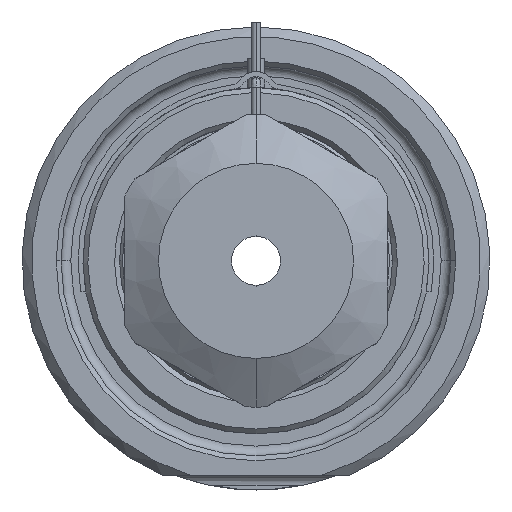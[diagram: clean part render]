
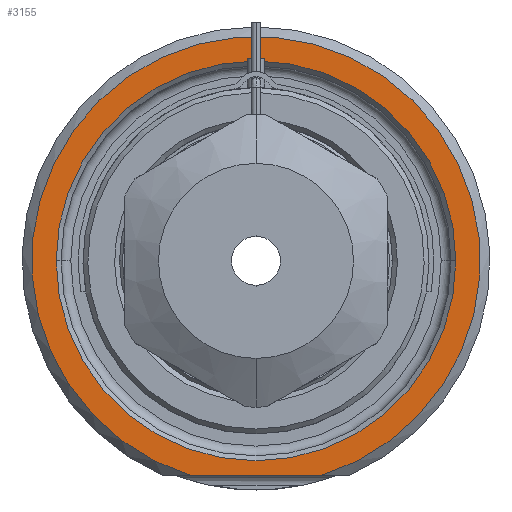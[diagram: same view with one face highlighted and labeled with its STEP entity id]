
A CAD part, front view. The second image highlights one B-rep face of the part: STEP entity #3155.
In plain terms, the highlighted planar face has unit normal (0, -1, 0).
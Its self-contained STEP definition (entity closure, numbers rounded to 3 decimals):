
#1=DIRECTION('',(1.,0.,0.));
#2=VECTOR('',#1,13.416);
#3=CARTESIAN_POINT('',(-6.708,0.,-22.));
#4=LINE('',#3,#2);
#5=CARTESIAN_POINT('',(0.,0.,0.));
#6=DIRECTION('',(0.,1.,0.));
#7=DIRECTION('',(-1.,0.,0.));
#8=AXIS2_PLACEMENT_3D('',#5,#6,#7);
#10=CARTESIAN_POINT('',(0.,0.,0.));
#11=DIRECTION('',(0.,1.,0.));
#12=DIRECTION('',(1.,0.,0.));
#13=AXIS2_PLACEMENT_3D('',#10,#11,#12);
#121=CARTESIAN_POINT('',(0.,0.,0.));
#122=DIRECTION('',(0.,-1.,0.));
#123=DIRECTION('',(0.292,0.,-0.957));
#124=AXIS2_PLACEMENT_3D('',#121,#122,#123);
#2609=CARTESIAN_POINT('',(-20.5,0.,0.));
#2610=CARTESIAN_POINT('',(20.5,0.,0.));
#2611=VERTEX_POINT('',#2609);
#2612=VERTEX_POINT('',#2610);
#2649=CARTESIAN_POINT('',(-6.708,0.,-22.));
#2650=CARTESIAN_POINT('',(6.708,0.,-22.));
#2651=VERTEX_POINT('',#2649);
#2652=VERTEX_POINT('',#2650);
#3138=CARTESIAN_POINT('',(0.,0.,0.));
#3139=DIRECTION('',(0.,-1.,0.));
#3140=DIRECTION('',(1.,0.,0.));
#3141=AXIS2_PLACEMENT_3D('',#3138,#3139,#3140);
#3142=PLANE('',#3141);
#3144=ORIENTED_EDGE('',*,*,#3143,.F.);
#3146=ORIENTED_EDGE('',*,*,#3145,.F.);
#3147=EDGE_LOOP('',(#3144,#3146));
#3148=FACE_OUTER_BOUND('',#3147,.F.);
#3150=ORIENTED_EDGE('',*,*,#3149,.F.);
#3152=ORIENTED_EDGE('',*,*,#3151,.F.);
#3153=EDGE_LOOP('',(#3150,#3152));
#3154=FACE_BOUND('',#3153,.F.);
#3155=ADVANCED_FACE('',(#3148,#3154),#3142,.T.);
#9=CIRCLE('',#8,20.5);
#14=CIRCLE('',#13,20.5);
#125=CIRCLE('',#124,23.);
#3143=EDGE_CURVE('',#2651,#2652,#4,.T.);
#3145=EDGE_CURVE('',#2652,#2651,#125,.T.);
#3149=EDGE_CURVE('',#2611,#2612,#9,.T.);
#3151=EDGE_CURVE('',#2612,#2611,#14,.T.);
